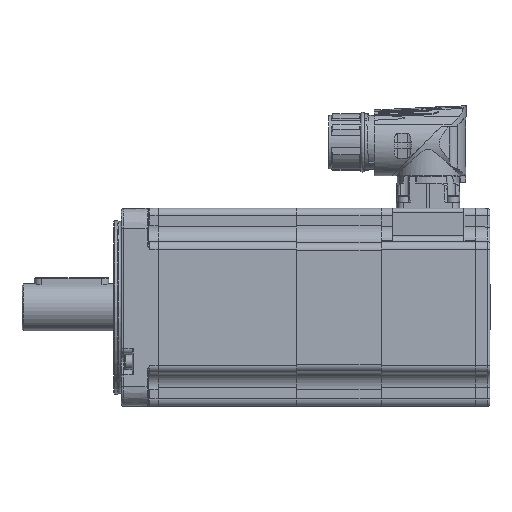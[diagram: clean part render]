
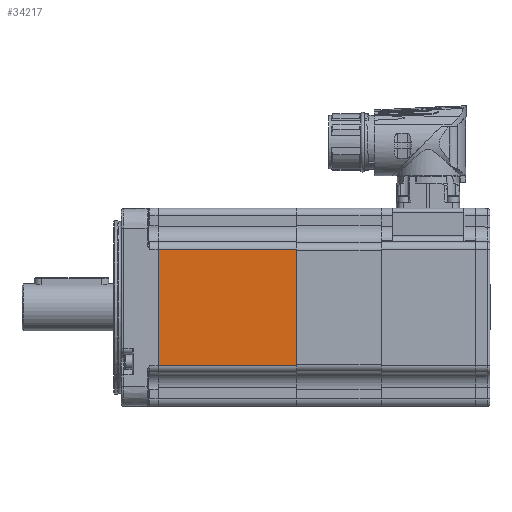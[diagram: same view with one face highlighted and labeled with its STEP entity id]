
A CAD part, left-side view. The second image highlights one B-rep face of the part: STEP entity #34217.
In plain terms, the highlighted planar face has unit normal (-1, 0, 0) as drawn and (0, -1, 0) by its records, which use the part's own axes.
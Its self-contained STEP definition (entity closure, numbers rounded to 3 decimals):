
#4118=LINE('',#80304,#6194);
#4126=LINE('',#80355,#6202);
#4133=LINE('',#80406,#6209);
#4134=LINE('',#80407,#6210);
#6194=VECTOR('',#58158,1000.);
#6202=VECTOR('',#58202,1000.);
#6209=VECTOR('',#58255,1000.);
#6210=VECTOR('',#58256,1000.);
#7075=PLANE('',#49388);
#16464=ORIENTED_EDGE('',*,*,#21331,.T.);
#16465=ORIENTED_EDGE('',*,*,#21309,.T.);
#16466=ORIENTED_EDGE('',*,*,#21332,.T.);
#16467=ORIENTED_EDGE('',*,*,#21284,.T.);
#21284=EDGE_CURVE('',#24587,#24586,#4118,.T.);
#21309=EDGE_CURVE('',#24612,#24611,#4126,.T.);
#21331=EDGE_CURVE('',#24586,#24612,#4133,.F.);
#21332=EDGE_CURVE('',#24611,#24587,#4134,.F.);
#24586=VERTEX_POINT('',#80303);
#24587=VERTEX_POINT('',#80305);
#24611=VERTEX_POINT('',#80354);
#24612=VERTEX_POINT('',#80356);
#28801=EDGE_LOOP('',(#16464,#16465,#16466,#16467));
#31554=FACE_BOUND('',#28801,.T.);
#34217=ADVANCED_FACE('',(#31554),#7075,.T.);
#49388=AXIS2_PLACEMENT_3D('',#80405,#58253,#58254);
#58158=DIRECTION('',(0.,0.,-1.));
#58202=DIRECTION('',(0.,0.,1.));
#58253=DIRECTION('',(0.,-1.,0.));
#58254=DIRECTION('',(0.,0.,-1.));
#58255=DIRECTION('',(-1.,0.,0.));
#58256=DIRECTION('',(1.,0.,0.));
#80303=CARTESIAN_POINT('',(-57.,-40.,-23.5));
#80304=CARTESIAN_POINT('',(-57.,-40.,40.));
#80305=CARTESIAN_POINT('',(-57.,-40.,23.5));
#80354=CARTESIAN_POINT('',(-1.,-40.,23.5));
#80355=CARTESIAN_POINT('',(-1.,-40.,40.));
#80356=CARTESIAN_POINT('',(-1.,-40.,-23.5));
#80405=CARTESIAN_POINT('',(-200.,-40.,40.));
#80406=CARTESIAN_POINT('',(0.,-40.,-23.5));
#80407=CARTESIAN_POINT('',(-200.,-40.,23.5));
